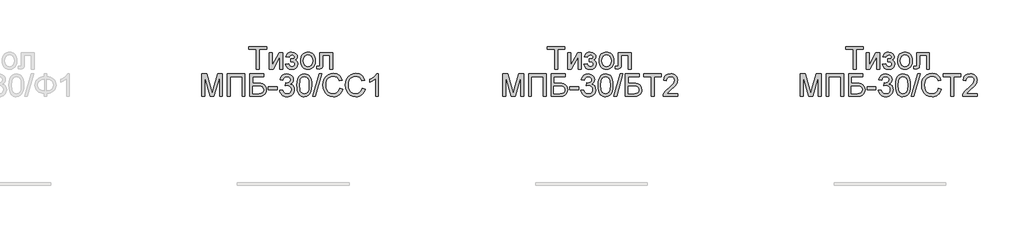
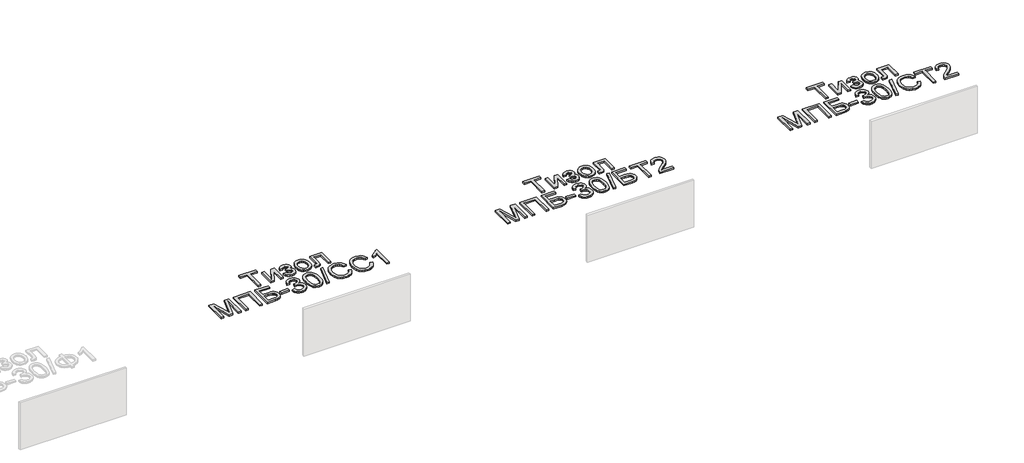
# One storey, part 28 of 35: 3 proxies.
"""IFC4 building model written with IfcOpenShell, lengths in millimetres."""

import ifcopenshell
import ifcopenshell.guid

model = None  # the IFC model being written
_history = None  # IfcOwnerHistory: only IFC2X3 demands one
_inside = {}  # id of a spatial element -> (the spatial element, [elements in it])
_under = {}  # id of a project, library or spatial element -> (it, [spatial elements below it])
_declared = {}  # id of a project -> (the project, [libraries it declares])
_typed = {}  # id of a type object -> (the type object, [elements of that type])
_made_of = {}  # id of a material, layer set ... -> (it, [elements and type objects made of it])


def new_model(schema):
    """Start an empty IFC model of exactly this schema.

    Asked for "IFC4X3", IfcOpenShell would pick the latest addendum, in which some entities
    have other attributes; the version numbers below select the first issue.
    IFC2X3 requires an IfcOwnerHistory on every rooted entity: one is made here for all.
    """
    global model, _history
    if schema == "IFC4X3":
        model = ifcopenshell.file(schema_version=(4, 3, 0, 0))
    else:
        model = ifcopenshell.file(schema=schema)
    _inside.clear()
    _under.clear()
    _declared.clear()
    _typed.clear()
    _made_of.clear()
    _history = None
    if model.schema == "IFC2X3":
        org = make("IfcOrganization", Name="unknown")
        user = make(
            "IfcPersonAndOrganization",
            ThePerson=make("IfcPerson", FamilyName="unknown"),
            TheOrganization=org,
        )
        app = make(
            "IfcApplication",
            ApplicationDeveloper=org,
            Version="unknown",
            ApplicationFullName="unknown",
            ApplicationIdentifier="unknown",
        )
        _history = make(
            "IfcOwnerHistory",
            OwningUser=user,
            OwningApplication=app,
            ChangeAction="ADDED",
            CreationDate=0,
        )
    return model


def make(cls, **values):
    """One entity of the class cls with the attributes given. An attribute that is None is left unset."""
    return model.create_entity(
        cls, **{name: value for name, value in values.items() if value is not None}
    )


def rooted(cls, **values):
    """An entity with a GlobalId (a new one), such as an element, a storey or a relation."""
    return make(cls, GlobalId=ifcopenshell.guid.new(), OwnerHistory=_history, **values)


def si_unit(unit_type, name, prefix=None):
    """IfcSIUnit, for example si_unit("LENGTHUNIT", "METRE", prefix="MILLI")."""
    return make("IfcSIUnit", UnitType=unit_type, Prefix=prefix, Name=name)


def assignment(units):
    """IfcUnitAssignment: the units of a project."""
    return None if units is None else make("IfcUnitAssignment", Units=units)


def point(xyz):
    """IfcCartesianPoint."""
    return None if xyz is None else make("IfcCartesianPoint", Coordinates=xyz)


def direction(xyz):
    """IfcDirection."""
    return None if xyz is None else make("IfcDirection", DirectionRatios=xyz)


def frame(location, z_axis=None, x_axis=None):
    """IfcAxis2Placement3D, a coordinate frame: its origin and axes. An axis left out is left unset."""
    return make(
        "IfcAxis2Placement3D",
        Location=point(location),
        Axis=direction(z_axis),
        RefDirection=direction(x_axis),
    )


def origin():
    """The frame at (0, 0, 0) with its axes left unset."""
    return frame((0.0, 0.0, 0.0))


def origin_with_axes():
    """The frame at (0, 0, 0) with the z axis (0, 0, 1) and the x axis (1, 0, 0) written out."""
    return frame((0.0, 0.0, 0.0), z_axis=(0.0, 0.0, 1.0), x_axis=(1.0, 0.0, 0.0))


def place(relative_to, where):
    """IfcLocalPlacement: puts the frame where relative to a parent placement (None: the world)."""
    return make(
        "IfcLocalPlacement", PlacementRelTo=relative_to, RelativePlacement=where
    )


def context(
    kind, dimensions, precision=None, world=None, true_north=None, identifier=None
):
    """IfcGeometricRepresentationContext, for example the 3D "Model" context."""
    return make(
        "IfcGeometricRepresentationContext",
        ContextIdentifier=identifier,
        ContextType=kind,
        CoordinateSpaceDimension=dimensions,
        Precision=precision,
        WorldCoordinateSystem=world,
        TrueNorth=true_north,
    )


def project(units=None, contexts=None):
    """IfcProject with its units and contexts."""
    return rooted(
        "IfcProject",
        Name="project",
        RepresentationContexts=contexts,
        UnitsInContext=assignment(units),
    )


def spatial(cls, under=None, at=None, **own):
    """A site, building, storey or space (cls), placed at a placement, below another one or the project."""
    s = rooted(cls, ObjectPlacement=at, **own)
    if under is not None:
        _under.setdefault(under.id(), (under, []))[1].append(s)
    return s


def polyline(points):
    """IfcPolyline through the points."""
    return make("IfcPolyline", Points=[point(p) for p in points])


def outline(outer, holes=None, kind="AREA"):
    """IfcArbitraryClosedProfileDef: a profile drawn as a closed curve; with holes, ...WithVoids."""
    if holes is None:
        return make("IfcArbitraryClosedProfileDef", ProfileType=kind, OuterCurve=outer)
    return make(
        "IfcArbitraryProfileDefWithVoids",
        ProfileType=kind,
        OuterCurve=outer,
        InnerCurves=holes,
    )


def extrude(swept, where, along, depth):
    """IfcExtrudedAreaSolid: the profile swept, set in the frame where, extruded along a direction by depth."""
    return make(
        "IfcExtrudedAreaSolid",
        SweptArea=swept,
        Position=where,
        ExtrudedDirection=direction(along),
        Depth=depth,
    )


def shape(context_of_items, identifier, shape_type, items):
    """IfcShapeRepresentation: the items that make up one representation, for example the "Body"."""
    return make(
        "IfcShapeRepresentation",
        ContextOfItems=context_of_items,
        RepresentationIdentifier=identifier,
        RepresentationType=shape_type,
        Items=items,
    )


def made_of(thing, what):
    """Note that an element or type object is made of a material, layer set ...; save() writes the relation."""
    if what is not None:
        _made_of.setdefault(what.id(), (what, []))[1].append(thing)
    return thing


def element(
    cls,
    number,
    at=None,
    inside=None,
    cuts=None,
    type_object=None,
    material=None,
    context=None,
    identifier="Body",
    shape_type=None,
    held_by="IfcProductDefinitionShape",
    body=None,
    shapes=None,
    **own,
):
    """One element of the class cls, such as IfcWall. Its Tag is "e" and its number.

    at: its placement. inside: the storey or other place that contains it. cuts: it is an
    opening in that element (IfcRelVoidsElement). A single representation is given by context,
    identifier, shape_type and body (its items); several are given by shapes. held_by: the class
    of the entity that holds the representations. save() writes the other relations.
    """
    e = rooted(cls, Tag="e%d" % number, ObjectPlacement=at, **own)
    if body is not None:
        shapes = [shape(context, identifier, shape_type, body)]
    if shapes is not None:
        e.Representation = make(held_by, Representations=shapes)
    if inside is not None:
        _inside.setdefault(inside.id(), (inside, []))[1].append(e)
    if cuts is not None:
        rooted(
            "IfcRelVoidsElement", RelatingBuildingElement=cuts, RelatedOpeningElement=e
        )
    if type_object is not None:
        _typed.setdefault(type_object.id(), (type_object, []))[1].append(e)
    return made_of(e, material)


def aggregate(whole, parts):
    """IfcRelAggregates: a whole, such as a stair, and the parts it consists of."""
    return rooted("IfcRelAggregates", RelatingObject=whole, RelatedObjects=parts)


def save(model, path):
    """Write the relations noted so far, then the file.

    IfcRelAggregates (storeys below a building ...), IfcRelContainedInSpatialStructure (elements
    in a storey), IfcRelDefinesByType, IfcRelAssociatesMaterial and IfcRelDeclares: one each for
    every whole, place, type object, material and project.
    """
    for whole, parts in _under.values():
        aggregate(whole, parts)
    for where, things in _inside.values():
        rooted(
            "IfcRelContainedInSpatialStructure",
            RelatedElements=things,
            RelatingStructure=where,
        )
    for kind, things in _typed.values():
        rooted("IfcRelDefinesByType", RelatedObjects=things, RelatingType=kind)
    for what, things in _made_of.values():
        rooted("IfcRelAssociatesMaterial", RelatedObjects=things, RelatingMaterial=what)
    for by, libraries in _declared.values():
        rooted("IfcRelDeclares", RelatingContext=by, RelatedDefinitions=libraries)
    model.write(path)


model = new_model("IFC4")

# Units and contexts
model_context = context("Model", 3, world=origin())
ifc_project = project(units=[si_unit("LENGTHUNIT", "METRE", prefix="MILLI")], contexts=[model_context])

# Site, building, storey
site = spatial("IfcSite", under=ifc_project)
building = spatial("IfcBuilding", under=site)
storey = spatial("IfcBuildingStorey", under=building, Name="Этаж 01", Elevation=0.0)

# Proxies
placement = place(None, origin())
element("IfcBuildingElementProxy", 1, Name="600 мм Arial", ObjectType="600 мм Arial", at=placement, inside=storey, context=model_context, shape_type="SweptSolid", body=[
    extrude(outline(polyline([(33296.4713258, -23914.0239469), (33296.4713258, -23650.3261327), (33197.5846455, -23650.3261327), (33197.5846455, -23612.6550164), (33433.0291224, -23612.6550164), (33433.0291224, -23650.3261327), (33334.1424421, -23650.3261327), (33334.1424421, -23914.0239469), (33296.4713258, -23914.0239469)])), origin_with_axes(), (0.0, 0.0, 1.0), 20.0),
    extrude(outline(polyline([(33470.7002387, -23692.7061386), (33508.371355, -23692.7061386), (33508.371355, -23861.490398), (33600.930465, -23692.7061386), (33649.6380412, -23692.7061386), (33649.6380412, -23914.0239469), (33611.9669249, -23914.0239469), (33611.9669249, -23746.2697571), (33519.9964261, -23914.0239469), (33470.7002387, -23914.0239469), (33470.7002387, -23692.7061386)])), origin_with_axes(), (0.0, 0.0, 1.0), 20.0),
    extrude(outline(polyline([(33757.9425006, -23815.1372666), (33757.9425006, -23777.4661503), (33787.6673658, -23775.9946223), (33802.6769512, -23768.1587358), (33807.9744519, -23760.8102929), (33809.7402855, -23751.787987), (33807.3766437, -23741.0734239), (33800.2857182, -23732.7684878), (33789.4607905, -23727.443396), (33775.8951419, -23725.6683653), (33762.1823406, -23727.4341989), (33750.6952253, -23732.7316996), (33741.433796, -23741.5608675), (33734.3980529, -23753.9217026), (33692.018047, -23749.212813), (33703.256842, -23722.4310038), (33720.3449607, -23703.30114), (33743.2824031, -23691.8232218), (33772.0691692, -23687.997249), (33803.559868, -23692.6601533), (33827.3986213, -23706.6488662), (33842.4082067, -23727.1123022), (33847.4114018, -23751.1993758), (33845.6317726, -23763.5602108), (33840.2928852, -23774.5966707), (33831.3947394, -23784.3087554), (33818.9373354, -23792.6964649), (33833.4778712, -23803.1627076), (33843.8429464, -23816.1673362), (33850.0509551, -23831.7471386), (33852.1202913, -23849.9389033), (33846.8687758, -23877.6680087), (33831.1142294, -23899.6397609), (33805.9235098, -23913.9595675), (33772.3634748, -23918.7328364), (33739.5392038, -23914.3182525), (33714.4220605, -23901.0745006), (33697.0120451, -23879.0015809), (33687.3091575, -23848.0994933), (33729.6891633, -23843.3906038), (33736.0351277, -23859.3198942), (33746.6853115, -23871.2024826), (33760.4073099, -23878.5969107), (33775.9687183, -23881.0617201), (33791.1254565, -23878.6980783), (33803.4862916, -23871.6071528), (33811.7084542, -23860.8374074), (33814.449175, -23847.4373057), (33812.7477208, -23836.8239102), (33807.6433581, -23827.6452544), (33793.1488075, -23817.0502529), (33765.3001405, -23814.9165374), (33757.9425006, -23815.1372666)])), origin_with_axes(), (0.0, 0.0, 1.0), 20.0),
    extrude(outline(polyline([(33889.7914076, -23803.3650427), (33891.8285542, -23774.7024368), (33897.9399938, -23750.0037593), (33908.1257266, -23729.2690104), (33922.3857524, -23712.4981899), (33936.7423473, -23701.7790283), (33952.5888642, -23694.1224843), (33969.9253032, -23689.5285578), (33988.7516643, -23687.997249), (34009.5346978, -23689.8619509), (34028.32657, -23695.4560565), (34045.1272808, -23704.7795658), (34059.9368304, -23717.8324788), (34072.0240532, -23734.1733372), (34080.6577838, -23753.3606825), (34085.8380221, -23775.3945148), (34087.5647682, -23800.274834), (34084.5113477, -23838.3322264), (34075.351086, -23867.3029335), (34060.3506976, -23888.9987741), (34039.7768971, -23905.2315672), (34015.3403355, -23915.3575191), (33988.7516643, -23918.7328364), (33967.6651282, -23916.8750323), (33948.6985121, -23911.3016201), (33931.851816, -23902.0125997), (33917.1250399, -23889.0079712), (33905.1665758, -23872.5084637), (33896.6248157, -23852.7348065), (33891.4997596, -23829.6869995), (33889.7914076, -23803.3650427)]), holes=[polyline([(33927.4625239, -23803.2914663), (33931.8219256, -23837.3849302), (33944.9001305, -23861.674339), (33964.5818173, -23876.2148748), (33988.7516643, -23881.0617201), (34012.8111468, -23876.1872837), (34032.4560454, -23861.5639744), (34045.5342503, -23836.9526689), (34049.8936519, -23802.1142439), (34045.5066591, -23769.0140614), (34032.3456808, -23745.0557465), (34012.6731911, -23730.5152106), (33988.7516643, -23725.6683653), (33964.5818173, -23730.4968165), (33944.9001305, -23744.9821701), (33931.8219256, -23769.2163965), (33927.4625239, -23803.2914663)])]), origin_with_axes(), (0.0, 0.0, 1.0), 20.0),
    extrude(outline(polyline([(34148.7803322, -23692.7061386), (34318.3003556, -23692.7061386), (34318.3003556, -23913.8032177), (34280.6292393, -23913.8032177), (34280.6292393, -23730.3772549), (34186.4514485, -23730.3772549), (34186.4514485, -23835.9593875), (34183.9130628, -23884.6669637), (34179.158188, -23895.6942265), (34169.9703352, -23905.2315672), (34156.0276075, -23911.8258519), (34137.0081084, -23914.0239469), (34106.4003264, -23912.1109605), (34106.4003264, -23876.3528306), (34123.2493218, -23876.3528306), (34140.2822581, -23874.035174), (34147.0880751, -23866.6775341), (34148.7803322, -23833.8256719), (34148.7803322, -23692.7061386)])), origin_with_axes(), (0.0, 0.0, 1.0), 20.0),
    extrude(outline(polyline([(32564.2390026, -24279.9484004), (32564.2390026, -23978.57947), (32629.0598102, -23978.57947), (32690.7168326, -24190.994534), (32703.151244, -24235.3611026), (32716.615725, -24187.315714), (32777.2426778, -23978.57947), (32842.0634854, -23978.57947), (32842.0634854, -24279.9484004), (32804.3923691, -24279.9484004), (32804.3923691, -24016.2505863), (32728.6822545, -24279.9484004), (32677.6202335, -24279.9484004), (32601.9101189, -24016.2505863), (32601.9101189, -24279.9484004), (32564.2390026, -24279.9484004)])), origin_with_axes(), (0.0, 0.0, 1.0), 20.0),
    extrude(outline(polyline([(32907.9879389, -23978.57947), (33143.4324158, -23978.57947), (33143.4324158, -24279.9484004), (33105.7612995, -24279.9484004), (33105.7612995, -24016.2505863), (32945.6590552, -24016.2505863), (32945.6590552, -24279.9484004), (32907.9879389, -24279.9484004), (32907.9879389, -23978.57947)])), origin_with_axes(), (0.0, 0.0, 1.0), 20.0),
    extrude(outline(polyline([(33209.3568694, -23978.57947), (33397.7124509, -23978.57947), (33397.7124509, -24016.2505863), (33247.0279857, -24016.2505863), (33247.0279857, -24105.7194875), (33317.5877523, -24105.7194875), (33352.6653006, -24107.6324739), (33379.7598095, -24113.371433), (33400.5635363, -24124.4262869), (33416.7687382, -24142.2869578), (33427.1981928, -24165.2795825), (33430.6746777, -24191.730298), (33428.2006712, -24213.9411734), (33420.778652, -24234.6621268), (33408.4454081, -24252.8079062), (33391.2377278, -24267.2932598), (33364.6950418, -24276.7846152), (33324.356781, -24279.9484004), (33209.3568694, -24279.9484004), (33209.3568694, -23978.57947)]), holes=[polyline([(33247.0279857, -24242.2772841), (33327.7412954, -24242.2772841), (33356.2705441, -24239.1686812), (33376.6696008, -24229.8428727), (33388.9200712, -24214.2998584), (33393.0035613, -24192.5396384), (33390.6675107, -24176.3344365), (33383.6593587, -24163.0355023), (33372.4849431, -24153.1762649), (33357.6501016, -24147.2901529), (33300.8859098, -24143.3906038), (33247.0279857, -24143.3906038), (33247.0279857, -24242.2772841)])]), origin_with_axes(), (0.0, 0.0, 1.0), 20.0),
    extrude(outline(polyline([(33458.9280149, -24190.4794992), (33458.9280149, -24152.8083829), (33576.6502533, -24152.8083829), (33576.6502533, -24190.4794992), (33458.9280149, -24190.4794992)])), origin_with_axes(), (0.0, 0.0, 1.0), 20.0),
    extrude(outline(polyline([(33609.6124801, -24199.8972783), (33647.2835964, -24195.1883887), (33655.7172912, -24218.8615951), (33668.0689291, -24234.8460678), (33684.9455157, -24243.9511472), (33706.954056, -24246.9861736), (33732.7793721, -24242.810713), (33752.7185762, -24230.2843311), (33765.4656874, -24211.5959257), (33769.7147244, -24188.9343948), (33765.5024756, -24167.4224951), (33752.865729, -24149.9756915), (33733.7358653, -24138.4149998), (33710.0442648, -24134.5614359), (33683.6303375, -24138.6817143), (33687.8241923, -24101.010598), (33693.857457, -24101.4520563), (33716.4270174, -24098.7481237), (33736.6053448, -24090.6363257), (33750.8423781, -24076.9143273), (33755.5880558, -24057.3797933), (33752.1483591, -24041.1102121), (33741.8292692, -24027.9124455), (33726.0839198, -24019.1660511), (33706.3654448, -24016.2505863), (33686.6101817, -24019.1936422), (33670.4601621, -24028.0228101), (33658.6695442, -24042.7380899), (33651.9924859, -24063.3394816), (33614.3213696, -24058.6305921), (33625.4130118, -24024.8038427), (33645.1498808, -23999.5487437), (33672.1524193, -23983.8217884), (33705.0410697, -23978.57947), (33728.7234731, -23981.163841), (33750.4744961, -23988.916954), (33768.8134135, -24001.1490304), (33782.2595004, -24017.1702913), (33790.5092542, -24035.6287704), (33793.2591721, -24055.1725014), (33790.6472099, -24073.3826601), (33782.8113234, -24089.9005617), (33769.8618772, -24103.972048), (33751.9092358, -24114.842961), (33775.4904717, -24124.3711046), (33792.9648665, -24140.5947006), (33803.7805972, -24162.6308321), (33807.3858407, -24189.5965824), (33805.5832189, -24208.708052), (33800.1753536, -24226.3112055), (33791.1622447, -24242.4060428), (33778.5438923, -24256.9925639), (33763.1710234, -24269.0958815), (33745.8943652, -24277.7411084), (33726.7139177, -24282.9282446), (33705.6296808, -24284.6572899), (33686.5733935, -24283.1811634), (33669.2093633, -24278.7527839), (33653.5375903, -24271.3721514), (33639.5580745, -24261.0392659), (33627.8364344, -24248.3611326), (33618.9382887, -24233.9447569), (33612.8636372, -24217.7901388), (33609.6124801, -24199.8972783)])), origin_with_axes(), (0.0, 0.0, 1.0), 20.0),
    extrude(outline(polyline([(33840.3480675, -24131.6919564), (33843.1163795, -24083.4534297), (33851.4213155, -24044.9821701), (33865.1801022, -24015.6895662), (33884.3099659, -23994.9870069), (33908.9488625, -23982.6813542), (33939.2347478, -23978.57947), (33962.4481017, -23981.0074911), (33983.2334344, -23988.2915546), (34000.6158587, -24000.1465519), (34013.6204872, -24016.2873745), (34023.4429365, -24036.5760665), (34031.278823, -24060.8746723), (34036.4107768, -24091.7307746), (34038.1214281, -24131.6919564), (34035.3807072, -24179.6545715), (34027.1585446, -24218.0338606), (34013.4825315, -24247.3540556), (33994.3802589, -24268.1393884), (33969.6861799, -24280.5278145), (33939.2347478, -24284.6572899), (33918.4862033, -24282.8638652), (33900.0921035, -24277.483591), (33884.0524485, -24268.5164674), (33870.3672383, -24255.9624943), (33857.2338511, -24233.2687737), (33847.8528602, -24204.9924439), (33842.2242657, -24171.1335048), (33840.3480675, -24131.6919564)]), holes=[polyline([(33878.0191838, -24131.61838), (33882.4337677, -24190.8749723), (33887.9519977, -24211.142971), (33895.6775196, -24225.1707713), (33915.3959945, -24241.5323231), (33939.2347478, -24246.9861736), (33963.0735011, -24241.513929), (33982.791976, -24225.0971949), (33990.5174979, -24211.046402), (33996.0357278, -24190.7830018), (34000.4503118, -24131.61838), (33996.1828806, -24073.6953598), (33990.8485917, -24053.4940398), (33983.3805872, -24039.1328464), (33963.6989005, -24021.9711513), (33938.7932894, -24016.2505863), (33915.2120535, -24021.2905696), (33896.2661307, -24036.4105196), (33888.2830915, -24052.0455044), (33882.5809205, -24073.1251427), (33878.0191838, -24131.61838)])]), origin_with_axes(), (0.0, 0.0, 1.0), 20.0),
    extrude(outline(polyline([(34052.2480967, -24279.9484004), (34137.0081084, -23978.57947), (34171.0004047, -23978.57947), (34086.2403931, -24279.9484004), (34052.2480967, -24279.9484004)])), origin_with_axes(), (0.0, 0.0, 1.0), 20.0),
    extrude(outline(polyline([(34414.8325911, -24172.8211634), (34452.5037075, -24182.5332481), (34445.0494985, -24205.9604334), (34435.1212832, -24226.4307672), (34422.7190614, -24243.9442494), (34407.8428332, -24258.5008801), (34390.828291, -24269.9443094), (34372.0111269, -24278.1181875), (34351.3913411, -24283.0225143), (34328.9689335, -24284.6572899), (34285.2737495, -24279.7092771), (34250.5732803, -24264.8652386), (34223.9754121, -24240.6402092), (34204.5880309, -24207.5492238), (34192.7514277, -24168.6457028), (34188.8058933, -24126.9830668), (34193.2664625, -24083.0395625), (34206.6481701, -24045.0925347), (34228.2520402, -24014.3467969), (34257.3790972, -23992.0071628), (34291.9232166, -23978.404726), (34329.7782739, -23973.8705804), (34371.0822249, -23979.7382982), (34389.0509611, -23987.0729455), (34405.2308711, -23997.3414517), (34419.3552404, -24010.2725038), (34431.1573547, -24025.5947889), (34447.7948179, -24063.413058), (34410.1237016, -24072.3893787), (34397.0638908, -24044.9177907), (34379.221614, -24026.0730355), (34356.3761421, -24015.1745314), (34328.3067459, -24011.5416967), (34295.9515244, -24015.5700046), (34269.3720503, -24027.6549281), (34249.2029199, -24046.5272745), (34236.0787297, -24070.9178507), (34228.8774396, -24098.4906063), (34226.4770096, -24126.9094904), (34229.318898, -24161.7111272), (34237.8445633, -24191.8038744), (34252.3759021, -24216.0381008), (34273.2348112, -24233.2641752), (34298.2415898, -24243.555674), (34325.2165371, -24246.9861736), (34356.6612507, -24242.3140723), (34382.8636458, -24228.2977683), (34402.6465001, -24205.0844144), (34414.8325911, -24172.8211634)])), origin_with_axes(), (0.0, 0.0, 1.0), 20.0),
    extrude(outline(polyline([(34716.2015216, -24172.8211634), (34753.8726379, -24182.5332481), (34746.418429, -24205.9604334), (34736.4902136, -24226.4307672), (34724.0879919, -24243.9442494), (34709.2117637, -24258.5008801), (34692.1972214, -24269.9443094), (34673.3800574, -24278.1181875), (34652.7602715, -24283.0225143), (34630.3378639, -24284.6572899), (34586.6426799, -24279.7092771), (34551.9422108, -24264.8652386), (34525.3443425, -24240.6402092), (34505.9569614, -24207.5492238), (34494.1203582, -24168.6457028), (34490.1748238, -24126.9830668), (34494.635393, -24083.0395625), (34508.0171005, -24045.0925347), (34529.6209707, -24014.3467969), (34558.7480277, -23992.0071628), (34593.292147, -23978.404726), (34631.1472043, -23973.8705804), (34672.4511553, -23979.7382982), (34690.4198915, -23987.0729455), (34706.5998015, -23997.3414517), (34720.7241709, -24010.2725038), (34732.5262851, -24025.5947889), (34749.1637484, -24063.413058), (34711.4926321, -24072.3893787), (34698.4328212, -24044.9177907), (34680.5905445, -24026.0730355), (34657.7450726, -24015.1745314), (34629.6756763, -24011.5416967), (34597.3204549, -24015.5700046), (34570.7409807, -24027.6549281), (34550.5718503, -24046.5272745), (34537.4476601, -24070.9178507), (34530.2463701, -24098.4906063), (34527.8459401, -24126.9094904), (34530.6878285, -24161.7111272), (34539.2134937, -24191.8038744), (34553.7448325, -24216.0381008), (34574.6037417, -24233.2641752), (34599.6105203, -24243.555674), (34626.5854676, -24246.9861736), (34658.0301811, -24242.3140723), (34684.2325762, -24228.2977683), (34704.0154305, -24205.0844144), (34716.2015216, -24172.8211634)])), origin_with_axes(), (0.0, 0.0, 1.0), 20.0),
    extrude(outline(polyline([(34932.8104404, -24279.9484004), (34895.1393241, -24279.9484004), (34895.1393241, -24045.0925347), (34859.4547705, -24070.5131806), (34819.7970914, -24089.5326797), (34819.7970914, -24053.9217026), (34849.3840009, -24037.8268653), (34875.0161789, -24018.6786074), (34895.2220975, -23998.316339), (34908.5302287, -23978.57947), (34932.8104404, -23978.57947), (34932.8104404, -24279.9484004)])), origin_with_axes(), (0.0, 0.0, 1.0), 20.0),
])
element("IfcBuildingElementProxy", 2, Name="600 мм Arial", ObjectType="600 мм Arial", at=placement, inside=storey, context=model_context, shape_type="SweptSolid", body=[
    extrude(outline(polyline([(37296.4713258, -23914.0239469), (37296.4713258, -23650.3261327), (37197.5846455, -23650.3261327), (37197.5846455, -23612.6550164), (37433.0291224, -23612.6550164), (37433.0291224, -23650.3261327), (37334.1424421, -23650.3261327), (37334.1424421, -23914.0239469), (37296.4713258, -23914.0239469)])), origin_with_axes(), (0.0, 0.0, 1.0), 20.0),
    extrude(outline(polyline([(37470.7002387, -23692.7061386), (37508.371355, -23692.7061386), (37508.371355, -23861.490398), (37600.930465, -23692.7061386), (37649.6380412, -23692.7061386), (37649.6380412, -23914.0239469), (37611.9669249, -23914.0239469), (37611.9669249, -23746.2697571), (37519.9964261, -23914.0239469), (37470.7002387, -23914.0239469), (37470.7002387, -23692.7061386)])), origin_with_axes(), (0.0, 0.0, 1.0), 20.0),
    extrude(outline(polyline([(37757.9425006, -23815.1372666), (37757.9425006, -23777.4661503), (37787.6673658, -23775.9946223), (37802.6769512, -23768.1587358), (37807.9744519, -23760.8102929), (37809.7402855, -23751.787987), (37807.3766437, -23741.0734239), (37800.2857182, -23732.7684878), (37789.4607905, -23727.443396), (37775.8951419, -23725.6683653), (37762.1823406, -23727.4341989), (37750.6952253, -23732.7316996), (37741.433796, -23741.5608675), (37734.3980529, -23753.9217026), (37692.018047, -23749.212813), (37703.256842, -23722.4310038), (37720.3449607, -23703.30114), (37743.2824031, -23691.8232218), (37772.0691692, -23687.997249), (37803.559868, -23692.6601533), (37827.3986213, -23706.6488662), (37842.4082067, -23727.1123022), (37847.4114018, -23751.1993758), (37845.6317726, -23763.5602108), (37840.2928852, -23774.5966707), (37831.3947394, -23784.3087554), (37818.9373354, -23792.6964649), (37833.4778712, -23803.1627076), (37843.8429464, -23816.1673362), (37850.0509551, -23831.7471386), (37852.1202913, -23849.9389033), (37846.8687758, -23877.6680087), (37831.1142294, -23899.6397609), (37805.9235098, -23913.9595675), (37772.3634748, -23918.7328364), (37739.5392038, -23914.3182525), (37714.4220605, -23901.0745006), (37697.0120451, -23879.0015809), (37687.3091575, -23848.0994933), (37729.6891633, -23843.3906038), (37736.0351277, -23859.3198942), (37746.6853115, -23871.2024826), (37760.4073099, -23878.5969107), (37775.9687183, -23881.0617201), (37791.1254565, -23878.6980783), (37803.4862916, -23871.6071528), (37811.7084542, -23860.8374074), (37814.449175, -23847.4373057), (37812.7477208, -23836.8239102), (37807.6433581, -23827.6452544), (37793.1488075, -23817.0502529), (37765.3001405, -23814.9165374), (37757.9425006, -23815.1372666)])), origin_with_axes(), (0.0, 0.0, 1.0), 20.0),
    extrude(outline(polyline([(37889.7914076, -23803.3650427), (37891.8285542, -23774.7024368), (37897.9399938, -23750.0037593), (37908.1257266, -23729.2690104), (37922.3857524, -23712.4981899), (37936.7423473, -23701.7790283), (37952.5888642, -23694.1224843), (37969.9253032, -23689.5285578), (37988.7516643, -23687.997249), (38009.5346978, -23689.8619509), (38028.32657, -23695.4560565), (38045.1272808, -23704.7795658), (38059.9368304, -23717.8324788), (38072.0240532, -23734.1733372), (38080.6577838, -23753.3606825), (38085.8380221, -23775.3945148), (38087.5647682, -23800.274834), (38084.5113477, -23838.3322264), (38075.351086, -23867.3029335), (38060.3506976, -23888.9987741), (38039.7768971, -23905.2315672), (38015.3403355, -23915.3575191), (37988.7516643, -23918.7328364), (37967.6651282, -23916.8750323), (37948.6985121, -23911.3016201), (37931.851816, -23902.0125997), (37917.1250399, -23889.0079712), (37905.1665758, -23872.5084637), (37896.6248157, -23852.7348065), (37891.4997596, -23829.6869995), (37889.7914076, -23803.3650427)]), holes=[polyline([(37927.4625239, -23803.2914663), (37931.8219256, -23837.3849302), (37944.9001305, -23861.674339), (37964.5818173, -23876.2148748), (37988.7516643, -23881.0617201), (38012.8111468, -23876.1872837), (38032.4560454, -23861.5639744), (38045.5342503, -23836.9526689), (38049.8936519, -23802.1142439), (38045.5066591, -23769.0140614), (38032.3456808, -23745.0557465), (38012.6731911, -23730.5152106), (37988.7516643, -23725.6683653), (37964.5818173, -23730.4968165), (37944.9001305, -23744.9821701), (37931.8219256, -23769.2163965), (37927.4625239, -23803.2914663)])]), origin_with_axes(), (0.0, 0.0, 1.0), 20.0),
    extrude(outline(polyline([(38148.7803322, -23692.7061386), (38318.3003556, -23692.7061386), (38318.3003556, -23913.8032177), (38280.6292393, -23913.8032177), (38280.6292393, -23730.3772549), (38186.4514485, -23730.3772549), (38186.4514485, -23835.9593875), (38183.9130628, -23884.6669637), (38179.158188, -23895.6942265), (38169.9703352, -23905.2315672), (38156.0276075, -23911.8258519), (38137.0081084, -23914.0239469), (38106.4003264, -23912.1109605), (38106.4003264, -23876.3528306), (38123.2493218, -23876.3528306), (38140.2822581, -23874.035174), (38147.0880751, -23866.6775341), (38148.7803322, -23833.8256719), (38148.7803322, -23692.7061386)])), origin_with_axes(), (0.0, 0.0, 1.0), 20.0),
    extrude(outline(polyline([(36601.9101189, -24279.9484004), (36601.9101189, -23978.57947), (36666.7309265, -23978.57947), (36728.3879489, -24190.994534), (36740.8223603, -24235.3611026), (36754.2868413, -24187.315714), (36814.9137941, -23978.57947), (36879.7346017, -23978.57947), (36879.7346017, -24279.9484004), (36842.0634854, -24279.9484004), (36842.0634854, -24016.2505863), (36766.3533708, -24279.9484004), (36715.2913498, -24279.9484004), (36639.5812352, -24016.2505863), (36639.5812352, -24279.9484004), (36601.9101189, -24279.9484004)])), origin_with_axes(), (0.0, 0.0, 1.0), 20.0),
    extrude(outline(polyline([(36945.6590552, -23978.57947), (37181.1035321, -23978.57947), (37181.1035321, -24279.9484004), (37143.4324158, -24279.9484004), (37143.4324158, -24016.2505863), (36983.3301715, -24016.2505863), (36983.3301715, -24279.9484004), (36945.6590552, -24279.9484004), (36945.6590552, -23978.57947)])), origin_with_axes(), (0.0, 0.0, 1.0), 20.0),
    extrude(outline(polyline([(37247.0279857, -23978.57947), (37435.3835672, -23978.57947), (37435.3835672, -24016.2505863), (37284.699102, -24016.2505863), (37284.699102, -24105.7194875), (37355.2588686, -24105.7194875), (37390.3364169, -24107.6324739), (37417.4309258, -24113.371433), (37438.2346527, -24124.4262869), (37454.4398545, -24142.2869578), (37464.8693091, -24165.2795825), (37468.345794, -24191.730298), (37465.8717875, -24213.9411734), (37458.4497683, -24234.6621268), (37446.1165244, -24252.8079062), (37428.9088441, -24267.2932598), (37402.3661581, -24276.7846152), (37362.0278974, -24279.9484004), (37247.0279857, -24279.9484004), (37247.0279857, -23978.57947)]), holes=[polyline([(37284.699102, -24242.2772841), (37365.4124117, -24242.2772841), (37393.9416604, -24239.1686812), (37414.3407171, -24229.8428727), (37426.5911875, -24214.2998584), (37430.6746777, -24192.5396384), (37428.338627, -24176.3344365), (37421.330475, -24163.0355023), (37410.1560594, -24153.1762649), (37395.3212179, -24147.2901529), (37338.5570261, -24143.3906038), (37284.699102, -24143.3906038), (37284.699102, -24242.2772841)])]), origin_with_axes(), (0.0, 0.0, 1.0), 20.0),
    extrude(outline(polyline([(37496.5991312, -24190.4794992), (37496.5991312, -24152.8083829), (37614.3213696, -24152.8083829), (37614.3213696, -24190.4794992), (37496.5991312, -24190.4794992)])), origin_with_axes(), (0.0, 0.0, 1.0), 20.0),
    extrude(outline(polyline([(37647.2835964, -24199.8972783), (37684.9547127, -24195.1883887), (37693.3884075, -24218.8615951), (37705.7400454, -24234.8460678), (37722.616632, -24243.9511472), (37744.6251723, -24246.9861736), (37770.4504884, -24242.810713), (37790.3896925, -24230.2843311), (37803.1368037, -24211.5959257), (37807.3858407, -24188.9343948), (37803.1735919, -24167.4224951), (37790.5368453, -24149.9756915), (37771.4069816, -24138.4149998), (37747.7153811, -24134.5614359), (37721.3014538, -24138.6817143), (37725.4953086, -24101.010598), (37731.5285733, -24101.4520563), (37754.0981337, -24098.7481237), (37774.2764611, -24090.6363257), (37788.5134944, -24076.9143273), (37793.2591721, -24057.3797933), (37789.8194754, -24041.1102121), (37779.5003855, -24027.9124455), (37763.7550361, -24019.1660511), (37744.0365611, -24016.2505863), (37724.281298, -24019.1936422), (37708.1312784, -24028.0228101), (37696.3406605, -24042.7380899), (37689.6636023, -24063.3394816), (37651.9924859, -24058.6305921), (37663.0841281, -24024.8038427), (37682.8209971, -23999.5487437), (37709.8235356, -23983.8217884), (37742.712186, -23978.57947), (37766.3945894, -23981.163841), (37788.1456124, -23988.916954), (37806.4845298, -24001.1490304), (37819.9306167, -24017.1702913), (37828.1803705, -24035.6287704), (37830.9302884, -24055.1725014), (37828.3183262, -24073.3826601), (37820.4824397, -24089.9005617), (37807.5329935, -24103.972048), (37789.5803521, -24114.842961), (37813.161588, -24124.3711046), (37830.6359828, -24140.5947006), (37841.4517135, -24162.6308321), (37845.056957, -24189.5965824), (37843.2543352, -24208.708052), (37837.8464699, -24226.3112055), (37828.833361, -24242.4060428), (37816.2150086, -24256.9925639), (37800.8421397, -24269.0958815), (37783.5654815, -24277.7411084), (37764.385034, -24282.9282446), (37743.3007972, -24284.6572899), (37724.2445098, -24283.1811634), (37706.8804796, -24278.7527839), (37691.2087066, -24271.3721514), (37677.2291908, -24261.0392659), (37665.5075507, -24248.3611326), (37656.609405, -24233.9447569), (37650.5347535, -24217.7901388), (37647.2835964, -24199.8972783)])), origin_with_axes(), (0.0, 0.0, 1.0), 20.0),
    extrude(outline(polyline([(37878.0191838, -24131.6919564), (37880.7874958, -24083.4534297), (37889.0924318, -24044.9821701), (37902.8512185, -24015.6895662), (37921.9810822, -23994.9870069), (37946.6199788, -23982.6813542), (37976.9058641, -23978.57947), (38000.119218, -23981.0074911), (38020.9045507, -23988.2915546), (38038.286975, -24000.1465519), (38051.2916035, -24016.2873745), (38061.1140528, -24036.5760665), (38068.9499393, -24060.8746723), (38074.0818931, -24091.7307746), (38075.7925444, -24131.6919564), (38073.0518235, -24179.6545715), (38064.8296609, -24218.0338606), (38051.1536478, -24247.3540556), (38032.0513752, -24268.1393884), (38007.3572962, -24280.5278145), (37976.9058641, -24284.6572899), (37956.1573196, -24282.8638652), (37937.7632198, -24277.483591), (37921.7235648, -24268.5164674), (37908.0383546, -24255.9624943), (37894.9049674, -24233.2687737), (37885.5239765, -24204.9924439), (37879.895382, -24171.1335048), (37878.0191838, -24131.6919564)]), holes=[polyline([(37915.6903001, -24131.61838), (37920.104884, -24190.8749723), (37925.623114, -24211.142971), (37933.3486359, -24225.1707713), (37953.0671108, -24241.5323231), (37976.9058641, -24246.9861736), (38000.7446174, -24241.513929), (38020.4630923, -24225.0971949), (38028.1886142, -24211.046402), (38033.7068441, -24190.7830018), (38038.1214281, -24131.61838), (38033.8539969, -24073.6953598), (38028.519708, -24053.4940398), (38021.0517035, -24039.1328464), (38001.3700168, -24021.9711513), (37976.4644057, -24016.2505863), (37952.8831698, -24021.2905696), (37933.9372471, -24036.4105196), (37925.9542078, -24052.0455044), (37920.2520368, -24073.1251427), (37915.6903001, -24131.61838)])]), origin_with_axes(), (0.0, 0.0, 1.0), 20.0),
    extrude(outline(polyline([(38089.919213, -24279.9484004), (38174.6792247, -23978.57947), (38208.6715211, -23978.57947), (38123.9115094, -24279.9484004), (38089.919213, -24279.9484004)])), origin_with_axes(), (0.0, 0.0, 1.0), 20.0),
    extrude(outline(polyline([(38240.6036782, -23978.57947), (38428.9592598, -23978.57947), (38428.9592598, -24016.2505863), (38278.2747945, -24016.2505863), (38278.2747945, -24105.7194875), (38348.8345612, -24105.7194875), (38383.9121095, -24107.6324739), (38411.0066184, -24113.371433), (38431.8103452, -24124.4262869), (38448.0155471, -24142.2869578), (38458.4450017, -24165.2795825), (38461.9214865, -24191.730298), (38459.4474801, -24213.9411734), (38452.0254609, -24234.6621268), (38439.692217, -24252.8079062), (38422.4845366, -24267.2932598), (38395.9418507, -24276.7846152), (38355.6035899, -24279.9484004), (38240.6036782, -24279.9484004), (38240.6036782, -23978.57947)]), holes=[polyline([(38278.2747945, -24242.2772841), (38358.9881043, -24242.2772841), (38387.517353, -24239.1686812), (38407.9164096, -24229.8428727), (38420.1668801, -24214.2998584), (38424.2503702, -24192.5396384), (38421.9143196, -24176.3344365), (38414.9061675, -24163.0355023), (38403.7317519, -24153.1762649), (38388.8969105, -24147.2901529), (38332.1327186, -24143.3906038), (38278.2747945, -24143.3906038), (38278.2747945, -24242.2772841)])]), origin_with_axes(), (0.0, 0.0, 1.0), 20.0),
    extrude(outline(polyline([(38589.0615041, -24279.9484004), (38589.0615041, -24016.2505863), (38490.1748238, -24016.2505863), (38490.1748238, -23978.57947), (38725.6193007, -23978.57947), (38725.6193007, -24016.2505863), (38626.7326204, -24016.2505863), (38626.7326204, -24279.9484004), (38589.0615041, -24279.9484004)])), origin_with_axes(), (0.0, 0.0, 1.0), 20.0),
    extrude(outline(polyline([(38946.937109, -24242.2772841), (38946.937109, -24279.9484004), (38749.1637484, -24279.9484004), (38753.2104503, -24253.9759315), (38762.4994707, -24233.6780425), (38776.0927104, -24213.9871587), (38795.7560031, -24193.3765699), (38823.2551822, -24170.3195658), (38863.9061427, -24134.211948), (38888.2967189, -24107.5588975), (38900.4920071, -24085.9274362), (38904.5571031, -24064.884586), (38900.7219333, -24046.0214367), (38889.2164239, -24030.3404667), (38871.530497, -24019.7730564), (38849.1540747, -24016.2505863), (38825.6556122, -24019.6902829), (38807.3994682, -24030.0093729), (38795.6180473, -24046.3985158), (38791.5437542, -24068.0483712), (38753.8726379, -24063.3394816), (38763.0053084, -24026.90077), (38771.551667, -24012.3648327), (38782.7513745, -24000.2845077), (38796.3469135, -23990.7885537), (38812.0807666, -23984.0057294), (38849.963415, -23978.57947), (38870.1532388, -23980.0877861), (38888.121975, -23984.6127347), (38903.8696236, -23992.1543156), (38917.3961848, -24002.7125288), (38928.2601999, -24015.5056252), (38936.0202108, -24029.7518555), (38940.6762173, -24045.4512196), (38942.2282194, -24062.6037177), (38940.5543564, -24080.6207384), (38935.5327671, -24098.3250594), (38926.6208258, -24116.3328831), (38913.2759064, -24135.2604117), (38892.00313, -24157.8575633), (38859.3076177, -24186.8742556), (38815.9711187, -24223.1106322), (38798.9749705, -24242.2772841), (38946.937109, -24242.2772841)])), origin_with_axes(), (0.0, 0.0, 1.0), 20.0),
])
element("IfcBuildingElementProxy", 3, Name="600 мм Arial", ObjectType="600 мм Arial", at=placement, inside=storey, context=model_context, shape_type="SweptSolid", body=[
    extrude(outline(polyline([(41296.4713258, -23914.0239469), (41296.4713258, -23650.3261327), (41197.5846455, -23650.3261327), (41197.5846455, -23612.6550164), (41433.0291224, -23612.6550164), (41433.0291224, -23650.3261327), (41334.1424421, -23650.3261327), (41334.1424421, -23914.0239469), (41296.4713258, -23914.0239469)])), origin_with_axes(), (0.0, 0.0, 1.0), 20.0),
    extrude(outline(polyline([(41470.7002387, -23692.7061386), (41508.371355, -23692.7061386), (41508.371355, -23861.490398), (41600.930465, -23692.7061386), (41649.6380412, -23692.7061386), (41649.6380412, -23914.0239469), (41611.9669249, -23914.0239469), (41611.9669249, -23746.2697571), (41519.9964261, -23914.0239469), (41470.7002387, -23914.0239469), (41470.7002387, -23692.7061386)])), origin_with_axes(), (0.0, 0.0, 1.0), 20.0),
    extrude(outline(polyline([(41757.9425006, -23815.1372666), (41757.9425006, -23777.4661503), (41787.6673658, -23775.9946223), (41802.6769512, -23768.1587358), (41807.9744519, -23760.8102929), (41809.7402855, -23751.787987), (41807.3766437, -23741.0734239), (41800.2857182, -23732.7684878), (41789.4607905, -23727.443396), (41775.8951419, -23725.6683653), (41762.1823406, -23727.4341989), (41750.6952253, -23732.7316996), (41741.433796, -23741.5608675), (41734.3980529, -23753.9217026), (41692.018047, -23749.212813), (41703.256842, -23722.4310038), (41720.3449607, -23703.30114), (41743.2824031, -23691.8232218), (41772.0691692, -23687.997249), (41803.559868, -23692.6601533), (41827.3986213, -23706.6488662), (41842.4082067, -23727.1123022), (41847.4114018, -23751.1993758), (41845.6317726, -23763.5602108), (41840.2928852, -23774.5966707), (41831.3947394, -23784.3087554), (41818.9373354, -23792.6964649), (41833.4778712, -23803.1627076), (41843.8429464, -23816.1673362), (41850.0509551, -23831.7471386), (41852.1202913, -23849.9389033), (41846.8687758, -23877.6680087), (41831.1142294, -23899.6397609), (41805.9235098, -23913.9595675), (41772.3634748, -23918.7328364), (41739.5392038, -23914.3182525), (41714.4220605, -23901.0745006), (41697.0120451, -23879.0015809), (41687.3091575, -23848.0994933), (41729.6891633, -23843.3906038), (41736.0351277, -23859.3198942), (41746.6853115, -23871.2024826), (41760.4073099, -23878.5969107), (41775.9687183, -23881.0617201), (41791.1254565, -23878.6980783), (41803.4862916, -23871.6071528), (41811.7084542, -23860.8374074), (41814.449175, -23847.4373057), (41812.7477208, -23836.8239102), (41807.6433581, -23827.6452544), (41793.1488075, -23817.0502529), (41765.3001405, -23814.9165374), (41757.9425006, -23815.1372666)])), origin_with_axes(), (0.0, 0.0, 1.0), 20.0),
    extrude(outline(polyline([(41889.7914076, -23803.3650427), (41891.8285542, -23774.7024368), (41897.9399938, -23750.0037593), (41908.1257266, -23729.2690104), (41922.3857524, -23712.4981899), (41936.7423473, -23701.7790283), (41952.5888642, -23694.1224843), (41969.9253032, -23689.5285578), (41988.7516643, -23687.997249), (42009.5346978, -23689.8619509), (42028.32657, -23695.4560565), (42045.1272808, -23704.7795658), (42059.9368304, -23717.8324788), (42072.0240532, -23734.1733372), (42080.6577838, -23753.3606825), (42085.8380221, -23775.3945148), (42087.5647682, -23800.274834), (42084.5113477, -23838.3322264), (42075.351086, -23867.3029335), (42060.3506976, -23888.9987741), (42039.7768971, -23905.2315672), (42015.3403355, -23915.3575191), (41988.7516643, -23918.7328364), (41967.6651282, -23916.8750323), (41948.6985121, -23911.3016201), (41931.851816, -23902.0125997), (41917.1250399, -23889.0079712), (41905.1665758, -23872.5084637), (41896.6248157, -23852.7348065), (41891.4997596, -23829.6869995), (41889.7914076, -23803.3650427)]), holes=[polyline([(41927.4625239, -23803.2914663), (41931.8219256, -23837.3849302), (41944.9001305, -23861.674339), (41964.5818173, -23876.2148748), (41988.7516643, -23881.0617201), (42012.8111468, -23876.1872837), (42032.4560454, -23861.5639744), (42045.5342503, -23836.9526689), (42049.8936519, -23802.1142439), (42045.5066591, -23769.0140614), (42032.3456808, -23745.0557465), (42012.6731911, -23730.5152106), (41988.7516643, -23725.6683653), (41964.5818173, -23730.4968165), (41944.9001305, -23744.9821701), (41931.8219256, -23769.2163965), (41927.4625239, -23803.2914663)])]), origin_with_axes(), (0.0, 0.0, 1.0), 20.0),
    extrude(outline(polyline([(42148.7803322, -23692.7061386), (42318.3003556, -23692.7061386), (42318.3003556, -23913.8032177), (42280.6292393, -23913.8032177), (42280.6292393, -23730.3772549), (42186.4514485, -23730.3772549), (42186.4514485, -23835.9593875), (42183.9130628, -23884.6669637), (42179.158188, -23895.6942265), (42169.9703352, -23905.2315672), (42156.0276075, -23911.8258519), (42137.0081084, -23914.0239469), (42106.4003264, -23912.1109605), (42106.4003264, -23876.3528306), (42123.2493218, -23876.3528306), (42140.2822581, -23874.035174), (42147.0880751, -23866.6775341), (42148.7803322, -23833.8256719), (42148.7803322, -23692.7061386)])), origin_with_axes(), (0.0, 0.0, 1.0), 20.0),
    extrude(outline(polyline([(40587.7834503, -24279.9484004), (40587.7834503, -23978.57947), (40652.6042579, -23978.57947), (40714.2612802, -24190.994534), (40726.6956917, -24235.3611026), (40740.1601727, -24187.315714), (40800.7871255, -23978.57947), (40865.6079331, -23978.57947), (40865.6079331, -24279.9484004), (40827.9368168, -24279.9484004), (40827.9368168, -24016.2505863), (40752.2267021, -24279.9484004), (40701.1646812, -24279.9484004), (40625.4545666, -24016.2505863), (40625.4545666, -24279.9484004), (40587.7834503, -24279.9484004)])), origin_with_axes(), (0.0, 0.0, 1.0), 20.0),
    extrude(outline(polyline([(40931.5323866, -23978.57947), (41166.9768635, -23978.57947), (41166.9768635, -24279.9484004), (41129.3057472, -24279.9484004), (41129.3057472, -24016.2505863), (40969.2035029, -24016.2505863), (40969.2035029, -24279.9484004), (40931.5323866, -24279.9484004), (40931.5323866, -23978.57947)])), origin_with_axes(), (0.0, 0.0, 1.0), 20.0),
    extrude(outline(polyline([(41232.901317, -23978.57947), (41421.2568986, -23978.57947), (41421.2568986, -24016.2505863), (41270.5724334, -24016.2505863), (41270.5724334, -24105.7194875), (41341.1322, -24105.7194875), (41376.2097483, -24107.6324739), (41403.3042572, -24113.371433), (41424.107984, -24124.4262869), (41440.3131859, -24142.2869578), (41450.7426405, -24165.2795825), (41454.2191253, -24191.730298), (41451.7451189, -24213.9411734), (41444.3230997, -24234.6621268), (41431.9898558, -24252.8079062), (41414.7821755, -24267.2932598), (41388.2394895, -24276.7846152), (41347.9012287, -24279.9484004), (41232.901317, -24279.9484004), (41232.901317, -23978.57947)]), holes=[polyline([(41270.5724334, -24242.2772841), (41351.2857431, -24242.2772841), (41379.8149918, -24239.1686812), (41400.2140485, -24229.8428727), (41412.4645189, -24214.2998584), (41416.548009, -24192.5396384), (41414.2119584, -24176.3344365), (41407.2038064, -24163.0355023), (41396.0293908, -24153.1762649), (41381.1945493, -24147.2901529), (41324.4303574, -24143.3906038), (41270.5724334, -24143.3906038), (41270.5724334, -24242.2772841)])]), origin_with_axes(), (0.0, 0.0, 1.0), 20.0),
    extrude(outline(polyline([(41482.4724626, -24190.4794992), (41482.4724626, -24152.8083829), (41600.194701, -24152.8083829), (41600.194701, -24190.4794992), (41482.4724626, -24190.4794992)])), origin_with_axes(), (0.0, 0.0, 1.0), 20.0),
    extrude(outline(polyline([(41633.1569278, -24199.8972783), (41670.8280441, -24195.1883887), (41679.2617388, -24218.8615951), (41691.6133768, -24234.8460678), (41708.4899634, -24243.9511472), (41730.4985037, -24246.9861736), (41756.3238198, -24242.810713), (41776.2630239, -24230.2843311), (41789.0101351, -24211.5959257), (41793.2591721, -24188.9343948), (41789.0469233, -24167.4224951), (41776.4101767, -24149.9756915), (41757.280313, -24138.4149998), (41733.5887125, -24134.5614359), (41707.1747852, -24138.6817143), (41711.36864, -24101.010598), (41717.4019047, -24101.4520563), (41739.9714651, -24098.7481237), (41760.1497925, -24090.6363257), (41774.3868257, -24076.9143273), (41779.1325035, -24057.3797933), (41775.6928068, -24041.1102121), (41765.3737169, -24027.9124455), (41749.6283675, -24019.1660511), (41729.9098925, -24016.2505863), (41710.1546294, -24019.1936422), (41694.0046098, -24028.0228101), (41682.2139919, -24042.7380899), (41675.5369336, -24063.3394816), (41637.8658173, -24058.6305921), (41648.9574595, -24024.8038427), (41668.6943285, -23999.5487437), (41695.696867, -23983.8217884), (41728.5855173, -23978.57947), (41752.2679208, -23981.163841), (41774.0189438, -23988.916954), (41792.3578612, -24001.1490304), (41805.8039481, -24017.1702913), (41814.0537019, -24035.6287704), (41816.8036198, -24055.1725014), (41814.1916576, -24073.3826601), (41806.3557711, -24089.9005617), (41793.4063249, -24103.972048), (41775.4536835, -24114.842961), (41799.0349194, -24124.3711046), (41816.5093142, -24140.5947006), (41827.3250449, -24162.6308321), (41830.9302884, -24189.5965824), (41829.1276666, -24208.708052), (41823.7198013, -24226.3112055), (41814.7066924, -24242.4060428), (41802.08834, -24256.9925639), (41786.7154711, -24269.0958815), (41769.4388129, -24277.7411084), (41750.2583654, -24282.9282446), (41729.1741285, -24284.6572899), (41710.1178412, -24283.1811634), (41692.753811, -24278.7527839), (41677.082038, -24271.3721514), (41663.1025222, -24261.0392659), (41651.3808821, -24248.3611326), (41642.4827364, -24233.9447569), (41636.4080849, -24217.7901388), (41633.1569278, -24199.8972783)])), origin_with_axes(), (0.0, 0.0, 1.0), 20.0),
    extrude(outline(polyline([(41863.8925152, -24131.6919564), (41866.6608272, -24083.4534297), (41874.9657632, -24044.9821701), (41888.7245498, -24015.6895662), (41907.8544136, -23994.9870069), (41932.4933102, -23982.6813542), (41962.7791955, -23978.57947), (41985.9925494, -23981.0074911), (42006.7778821, -23988.2915546), (42024.1603064, -24000.1465519), (42037.1649349, -24016.2873745), (42046.9873842, -24036.5760665), (42054.8232707, -24060.8746723), (42059.9552245, -24091.7307746), (42061.6658758, -24131.6919564), (42058.9251549, -24179.6545715), (42050.7029923, -24218.0338606), (42037.0269792, -24247.3540556), (42017.9247066, -24268.1393884), (41993.2306276, -24280.5278145), (41962.7791955, -24284.6572899), (41942.0306509, -24282.8638652), (41923.6365512, -24277.483591), (41907.5968962, -24268.5164674), (41893.911686, -24255.9624943), (41880.7782988, -24233.2687737), (41871.3973079, -24204.9924439), (41865.7687133, -24171.1335048), (41863.8925152, -24131.6919564)]), holes=[polyline([(41901.5636315, -24131.61838), (41905.9782154, -24190.8749723), (41911.4964453, -24211.142971), (41919.2219672, -24225.1707713), (41938.9404422, -24241.5323231), (41962.7791955, -24246.9861736), (41986.6179488, -24241.513929), (42006.3364237, -24225.0971949), (42014.0619456, -24211.046402), (42019.5801755, -24190.7830018), (42023.9947595, -24131.61838), (42019.7273283, -24073.6953598), (42014.3930394, -24053.4940398), (42006.9250349, -24039.1328464), (41987.2433482, -24021.9711513), (41962.3377371, -24016.2505863), (41938.7565012, -24021.2905696), (41919.8105784, -24036.4105196), (41911.8275391, -24052.0455044), (41906.1253682, -24073.1251427), (41901.5636315, -24131.61838)])]), origin_with_axes(), (0.0, 0.0, 1.0), 20.0),
    extrude(outline(polyline([(42075.7925444, -24279.9484004), (42160.5525561, -23978.57947), (42194.5448524, -23978.57947), (42109.7848407, -24279.9484004), (42075.7925444, -24279.9484004)])), origin_with_axes(), (0.0, 0.0, 1.0), 20.0),
    extrude(outline(polyline([(42438.3770388, -24172.8211634), (42476.0481551, -24182.5332481), (42468.5939462, -24205.9604334), (42458.6657309, -24226.4307672), (42446.2635091, -24243.9442494), (42431.3872809, -24258.5008801), (42414.3727387, -24269.9443094), (42395.5555746, -24278.1181875), (42374.9357888, -24283.0225143), (42352.5133812, -24284.6572899), (42308.8181972, -24279.7092771), (42274.117728, -24264.8652386), (42247.5198597, -24240.6402092), (42228.1324786, -24207.5492238), (42216.2958754, -24168.6457028), (42212.350341, -24126.9830668), (42216.8109102, -24083.0395625), (42230.1926178, -24045.0925347), (42251.7964879, -24014.3467969), (42280.9235449, -23992.0071628), (42315.4676643, -23978.404726), (42353.3227216, -23973.8705804), (42394.6266726, -23979.7382982), (42412.5954088, -23987.0729455), (42428.7753188, -23997.3414517), (42442.8996881, -24010.2725038), (42454.7018024, -24025.5947889), (42471.3392656, -24063.413058), (42433.6681493, -24072.3893787), (42420.6083385, -24044.9177907), (42402.7660617, -24026.0730355), (42379.9205898, -24015.1745314), (42351.8511936, -24011.5416967), (42319.4959721, -24015.5700046), (42292.9164979, -24027.6549281), (42272.7473676, -24046.5272745), (42259.6231774, -24070.9178507), (42252.4218873, -24098.4906063), (42250.0214573, -24126.9094904), (42252.8633457, -24161.7111272), (42261.389011, -24191.8038744), (42275.9203498, -24216.0381008), (42296.7792589, -24233.2641752), (42321.7860375, -24243.555674), (42348.7609848, -24246.9861736), (42380.2056984, -24242.3140723), (42406.4080935, -24228.2977683), (42426.1909477, -24205.0844144), (42438.3770388, -24172.8211634)])), origin_with_axes(), (0.0, 0.0, 1.0), 20.0),
    extrude(outline(polyline([(42603.1881727, -24279.9484004), (42603.1881727, -24016.2505863), (42504.3014924, -24016.2505863), (42504.3014924, -23978.57947), (42739.7459693, -23978.57947), (42739.7459693, -24016.2505863), (42640.859289, -24016.2505863), (42640.859289, -24279.9484004), (42603.1881727, -24279.9484004)])), origin_with_axes(), (0.0, 0.0, 1.0), 20.0),
    extrude(outline(polyline([(42961.0637776, -24242.2772841), (42961.0637776, -24279.9484004), (42763.290417, -24279.9484004), (42767.3371189, -24253.9759315), (42776.6261393, -24233.6780425), (42790.219379, -24213.9871587), (42809.8826717, -24193.3765699), (42837.3818508, -24170.3195658), (42878.0328113, -24134.211948), (42902.4233876, -24107.5588975), (42914.6186757, -24085.9274362), (42918.6837717, -24064.884586), (42914.8486019, -24046.0214367), (42903.3430925, -24030.3404667), (42885.6571656, -24019.7730564), (42863.2807433, -24016.2505863), (42839.7822808, -24019.6902829), (42821.5261368, -24030.0093729), (42809.7447159, -24046.3985158), (42805.6704228, -24068.0483712), (42767.9993065, -24063.3394816), (42777.131977, -24026.90077), (42785.6783356, -24012.3648327), (42796.8780431, -24000.2845077), (42810.4735821, -23990.7885537), (42826.2074352, -23984.0057294), (42864.0900837, -23978.57947), (42884.2799074, -23980.0877861), (42902.2486436, -23984.6127347), (42917.9962923, -23992.1543156), (42931.5228534, -24002.7125288), (42942.3868685, -24015.5056252), (42950.1468794, -24029.7518555), (42954.8028859, -24045.4512196), (42956.354888, -24062.6037177), (42954.681025, -24080.6207384), (42949.6594357, -24098.3250594), (42940.7474944, -24116.3328831), (42927.402575, -24135.2604117), (42906.1297987, -24157.8575633), (42873.4342863, -24186.8742556), (42830.0977873, -24223.1106322), (42813.1016391, -24242.2772841), (42961.0637776, -24242.2772841)])), origin_with_axes(), (0.0, 0.0, 1.0), 20.0),
])

save(model, "model.ifc")
